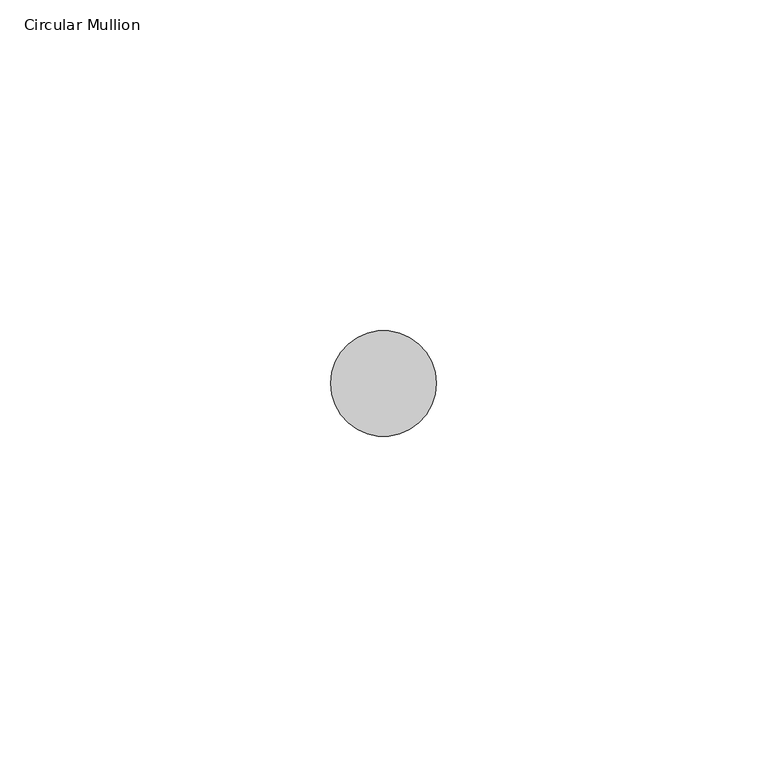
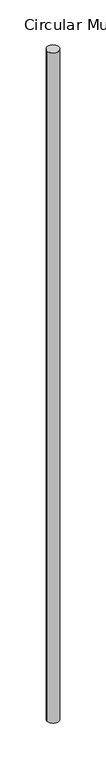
"""IFC4 building model written with IfcOpenShell, lengths in millimetres: member geometry, Circular Mullion : ARQ_HERR_16mm."""

import ifcopenshell
import ifcopenshell.guid

model = None  # the IFC model being written
_history = None  # IfcOwnerHistory: only IFC2X3 demands one
_inside = {}  # id of a spatial element -> (the spatial element, [elements in it])
_under = {}  # id of a project, library or spatial element -> (it, [spatial elements below it])
_declared = {}  # id of a project -> (the project, [libraries it declares])
_typed = {}  # id of a type object -> (the type object, [elements of that type])
_made_of = {}  # id of a material, layer set ... -> (it, [elements and type objects made of it])


def new_model(schema):
    """Start an empty IFC model of exactly this schema.

    Asked for "IFC4X3", IfcOpenShell would pick the latest addendum, in which some entities
    have other attributes; the version numbers below select the first issue.
    IFC2X3 requires an IfcOwnerHistory on every rooted entity: one is made here for all.
    """
    global model, _history
    if schema == "IFC4X3":
        model = ifcopenshell.file(schema_version=(4, 3, 0, 0))
    else:
        model = ifcopenshell.file(schema=schema)
    _inside.clear()
    _under.clear()
    _declared.clear()
    _typed.clear()
    _made_of.clear()
    _history = None
    if model.schema == "IFC2X3":
        org = make("IfcOrganization", Name="unknown")
        user = make(
            "IfcPersonAndOrganization",
            ThePerson=make("IfcPerson", FamilyName="unknown"),
            TheOrganization=org,
        )
        app = make(
            "IfcApplication",
            ApplicationDeveloper=org,
            Version="unknown",
            ApplicationFullName="unknown",
            ApplicationIdentifier="unknown",
        )
        _history = make(
            "IfcOwnerHistory",
            OwningUser=user,
            OwningApplication=app,
            ChangeAction="ADDED",
            CreationDate=0,
        )
    return model


def make(cls, **values):
    """One entity of the class cls with the attributes given. An attribute that is None is left unset."""
    return model.create_entity(
        cls, **{name: value for name, value in values.items() if value is not None}
    )


def rooted(cls, **values):
    """An entity with a GlobalId (a new one), such as an element, a storey or a relation."""
    return make(cls, GlobalId=ifcopenshell.guid.new(), OwnerHistory=_history, **values)


def si_unit(unit_type, name, prefix=None):
    """IfcSIUnit, for example si_unit("LENGTHUNIT", "METRE", prefix="MILLI")."""
    return make("IfcSIUnit", UnitType=unit_type, Prefix=prefix, Name=name)


def assignment(units):
    """IfcUnitAssignment: the units of a project."""
    return None if units is None else make("IfcUnitAssignment", Units=units)


def point(xyz):
    """IfcCartesianPoint."""
    return None if xyz is None else make("IfcCartesianPoint", Coordinates=xyz)


def direction(xyz):
    """IfcDirection."""
    return None if xyz is None else make("IfcDirection", DirectionRatios=xyz)


def frame(location, z_axis=None, x_axis=None):
    """IfcAxis2Placement3D, a coordinate frame: its origin and axes. An axis left out is left unset."""
    return make(
        "IfcAxis2Placement3D",
        Location=point(location),
        Axis=direction(z_axis),
        RefDirection=direction(x_axis),
    )


def frame_2d(location, x_axis=None):
    """IfcAxis2Placement2D, a coordinate frame in the plane: its origin and x axis."""
    return make(
        "IfcAxis2Placement2D", Location=point(location), RefDirection=direction(x_axis)
    )


def origin():
    """The frame at (0, 0, 0) with its axes left unset."""
    return frame((0.0, 0.0, 0.0))


def origin_2d():
    """The frame at (0, 0) in the plane with its x axis left unset."""
    return frame_2d((0.0, 0.0))


def place(relative_to, where):
    """IfcLocalPlacement: puts the frame where relative to a parent placement (None: the world)."""
    return make(
        "IfcLocalPlacement", PlacementRelTo=relative_to, RelativePlacement=where
    )


def context(
    kind, dimensions, precision=None, world=None, true_north=None, identifier=None
):
    """IfcGeometricRepresentationContext, for example the 3D "Model" context."""
    return make(
        "IfcGeometricRepresentationContext",
        ContextIdentifier=identifier,
        ContextType=kind,
        CoordinateSpaceDimension=dimensions,
        Precision=precision,
        WorldCoordinateSystem=world,
        TrueNorth=true_north,
    )


def project(units=None, contexts=None):
    """IfcProject with its units and contexts."""
    return rooted(
        "IfcProject",
        Name="project",
        RepresentationContexts=contexts,
        UnitsInContext=assignment(units),
    )


def spatial(cls, under=None, at=None, **own):
    """A site, building, storey or space (cls), placed at a placement, below another one or the project."""
    s = rooted(cls, ObjectPlacement=at, **own)
    if under is not None:
        _under.setdefault(under.id(), (under, []))[1].append(s)
    return s


def circle_curve(where, radius):
    """IfcCircle in the frame where."""
    return make("IfcCircle", Position=where, Radius=radius)


def trimmed(basis, trim1, trim2, sense, master):
    """IfcTrimmedCurve: the piece of a basis curve between two trims."""
    return make(
        "IfcTrimmedCurve",
        BasisCurve=basis,
        Trim1=trim1,
        Trim2=trim2,
        SenseAgreement=sense,
        MasterRepresentation=master,
    )


def segment(curve, same_sense, transition):
    """IfcCompositeCurveSegment."""
    return make(
        "IfcCompositeCurveSegment",
        Transition=transition,
        SameSense=same_sense,
        ParentCurve=curve,
    )


def composite_curve(segments, self_intersect=None):
    """IfcCompositeCurve: segments joined end to end."""
    return make("IfcCompositeCurve", Segments=segments, SelfIntersect=self_intersect)


def outline(outer, holes=None, kind="AREA"):
    """IfcArbitraryClosedProfileDef: a profile drawn as a closed curve; with holes, ...WithVoids."""
    if holes is None:
        return make("IfcArbitraryClosedProfileDef", ProfileType=kind, OuterCurve=outer)
    return make(
        "IfcArbitraryProfileDefWithVoids",
        ProfileType=kind,
        OuterCurve=outer,
        InnerCurves=holes,
    )


def extrude(swept, where, along, depth):
    """IfcExtrudedAreaSolid: the profile swept, set in the frame where, extruded along a direction by depth."""
    return make(
        "IfcExtrudedAreaSolid",
        SweptArea=swept,
        Position=where,
        ExtrudedDirection=direction(along),
        Depth=depth,
    )


def shape(context_of_items, identifier, shape_type, items):
    """IfcShapeRepresentation: the items that make up one representation, for example the "Body"."""
    return make(
        "IfcShapeRepresentation",
        ContextOfItems=context_of_items,
        RepresentationIdentifier=identifier,
        RepresentationType=shape_type,
        Items=items,
    )


def source(mapping_origin, context_of_items, identifier, shape_type, items):
    """IfcRepresentationMap: a shape defined once, which mapped items show again and again."""
    return make(
        "IfcRepresentationMap",
        MappingOrigin=mapping_origin,
        MappedRepresentation=shape(context_of_items, identifier, shape_type, items),
    )


def transform(
    local_origin,
    x_axis=None,
    y_axis=None,
    z_axis=None,
    scale=None,
    scale2=None,
    scale3=None,
    uniform=True,
):
    """IfcCartesianTransformationOperator3D, or its non-uniform kind. x_axis, y_axis, z_axis: its Axis1, 2, 3."""
    if uniform:
        return make(
            "IfcCartesianTransformationOperator3D",
            Axis1=direction(x_axis),
            Axis2=direction(y_axis),
            LocalOrigin=point(local_origin),
            Scale=scale,
            Axis3=direction(z_axis),
        )
    return make(
        "IfcCartesianTransformationOperator3DnonUniform",
        Axis1=direction(x_axis),
        Axis2=direction(y_axis),
        LocalOrigin=point(local_origin),
        Scale=scale,
        Axis3=direction(z_axis),
        Scale2=scale2,
        Scale3=scale3,
    )


def mapped(mapping_source, mapping_target):
    """IfcMappedItem: shows the shape of a source again, moved by a transform."""
    return make(
        "IfcMappedItem", MappingSource=mapping_source, MappingTarget=mapping_target
    )


def made_of(thing, what):
    """Note that an element or type object is made of a material, layer set ...; save() writes the relation."""
    if what is not None:
        _made_of.setdefault(what.id(), (what, []))[1].append(thing)
    return thing


def element(
    cls,
    number,
    at=None,
    inside=None,
    cuts=None,
    type_object=None,
    material=None,
    context=None,
    identifier="Body",
    shape_type=None,
    held_by="IfcProductDefinitionShape",
    body=None,
    shapes=None,
    **own,
):
    """One element of the class cls, such as IfcWall. Its Tag is "e" and its number.

    at: its placement. inside: the storey or other place that contains it. cuts: it is an
    opening in that element (IfcRelVoidsElement). A single representation is given by context,
    identifier, shape_type and body (its items); several are given by shapes. held_by: the class
    of the entity that holds the representations. save() writes the other relations.
    """
    e = rooted(cls, Tag="e%d" % number, ObjectPlacement=at, **own)
    if body is not None:
        shapes = [shape(context, identifier, shape_type, body)]
    if shapes is not None:
        e.Representation = make(held_by, Representations=shapes)
    if inside is not None:
        _inside.setdefault(inside.id(), (inside, []))[1].append(e)
    if cuts is not None:
        rooted(
            "IfcRelVoidsElement", RelatingBuildingElement=cuts, RelatedOpeningElement=e
        )
    if type_object is not None:
        _typed.setdefault(type_object.id(), (type_object, []))[1].append(e)
    return made_of(e, material)


def aggregate(whole, parts):
    """IfcRelAggregates: a whole, such as a stair, and the parts it consists of."""
    return rooted("IfcRelAggregates", RelatingObject=whole, RelatedObjects=parts)


def save(model, path):
    """Write the relations noted so far, then the file.

    IfcRelAggregates (storeys below a building ...), IfcRelContainedInSpatialStructure (elements
    in a storey), IfcRelDefinesByType, IfcRelAssociatesMaterial and IfcRelDeclares: one each for
    every whole, place, type object, material and project.
    """
    for whole, parts in _under.values():
        aggregate(whole, parts)
    for where, things in _inside.values():
        rooted(
            "IfcRelContainedInSpatialStructure",
            RelatedElements=things,
            RelatingStructure=where,
        )
    for kind, things in _typed.values():
        rooted("IfcRelDefinesByType", RelatedObjects=things, RelatingType=kind)
    for what, things in _made_of.values():
        rooted("IfcRelAssociatesMaterial", RelatedObjects=things, RelatingMaterial=what)
    for by, libraries in _declared.values():
        rooted("IfcRelDeclares", RelatingContext=by, RelatedDefinitions=libraries)
    model.write(path)


def circular_mullion_a09c3154(model_context):
    return source(origin(), model_context, "Body", "SweptSolid", [
        extrude(outline(composite_curve([segment(trimmed(circle_curve(origin_2d(), 8.0), [point((8.0, 0.0))], [point((-8.0, 0.0))], False, "CARTESIAN"), True, "CONTINUOUS"), segment(trimmed(circle_curve(origin_2d(), 8.0), [point((-8.0, 0.0))], [point((8.0, 0.0))], False, "CARTESIAN"), True, "CONTINUOUS")], self_intersect=False)), frame((0.0, 0.0, -941.2043467), z_axis=(0.0, 0.0, 1.0), x_axis=(1.0, 0.0, 0.0)), (0.0, 0.0, 1.0), 941.2043467),
    ])


if __name__ == "__main__":
    model = new_model("IFC4")
    model_context = context("Model", 3, world=origin())
    ifc_project = project(units=[si_unit("LENGTHUNIT", "METRE", prefix="MILLI")], contexts=[model_context])
    site = spatial("IfcSite", under=ifc_project)
    building = spatial("IfcBuilding", under=site)
    placement = place(None, origin())
    circular_mullion_shape = circular_mullion_a09c3154(model_context)
    element("IfcMember", 1, ObjectType="Circular Mullion : ARQ_HERR_16mm", at=placement, inside=building, context=model_context, shape_type="MappedRepresentation", body=[
        mapped(circular_mullion_shape, transform((0.0, 0.0, 0.0), x_axis=(1.0, 0.0, 0.0), y_axis=(0.0, 1.0, 0.0), z_axis=(0.0, 0.0, 1.0))),
    ])
    save(model, "model.ifc")
